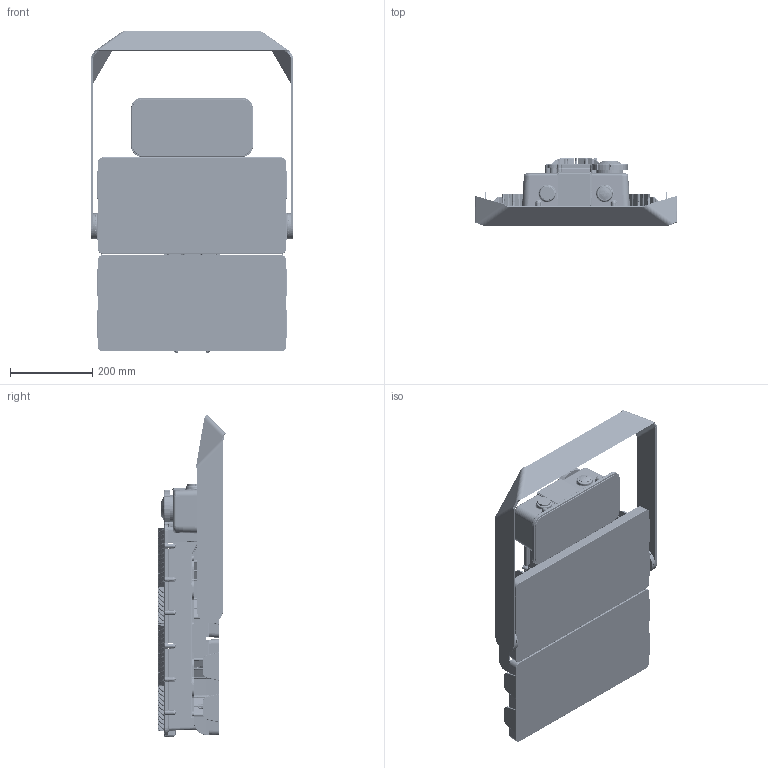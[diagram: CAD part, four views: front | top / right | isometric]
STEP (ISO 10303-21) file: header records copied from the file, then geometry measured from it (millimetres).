
FILE_DESCRIPTION((''),'2;1');
FILE_NAME('F2XNXXXXSENXXN_SW','2021-04-14T17:14:27',('gatsonnb'),(''),'CREO PARAMETRIC BY PTC INC, 2019080','CREO PARAMETRIC BY PTC INC, 2019080','');
FILE_SCHEMA(('CONFIG_CONTROL_DESIGN'));
Products named in the file (1): F2XNXXXXSENXXN_SW
Bounding box: 494.59 x 165.29 x 784.5 mm (x, y, z)
Surface area: 2120985.1 mm2 (no closed solid volume)
Topology: 0 solids, 196 shells, 15488 faces, 42606 edges, 25741 vertices
Faces by surface type: bspline 6179, cylinder 4100, plane 2702, cone 1358, torus 1079, sphere 70
Entity records: 813487 total; most frequent: CARTESIAN_POINT 490703, ORIENTED_EDGE 72145, DIRECTION 52155, EDGE_CURVE 42606, VERTEX_POINT 25741, AXIS2_PLACEMENT_3D 20474, B_SPLINE_CURVE_WITH_KNOTS 20234, EDGE_LOOP 15488
